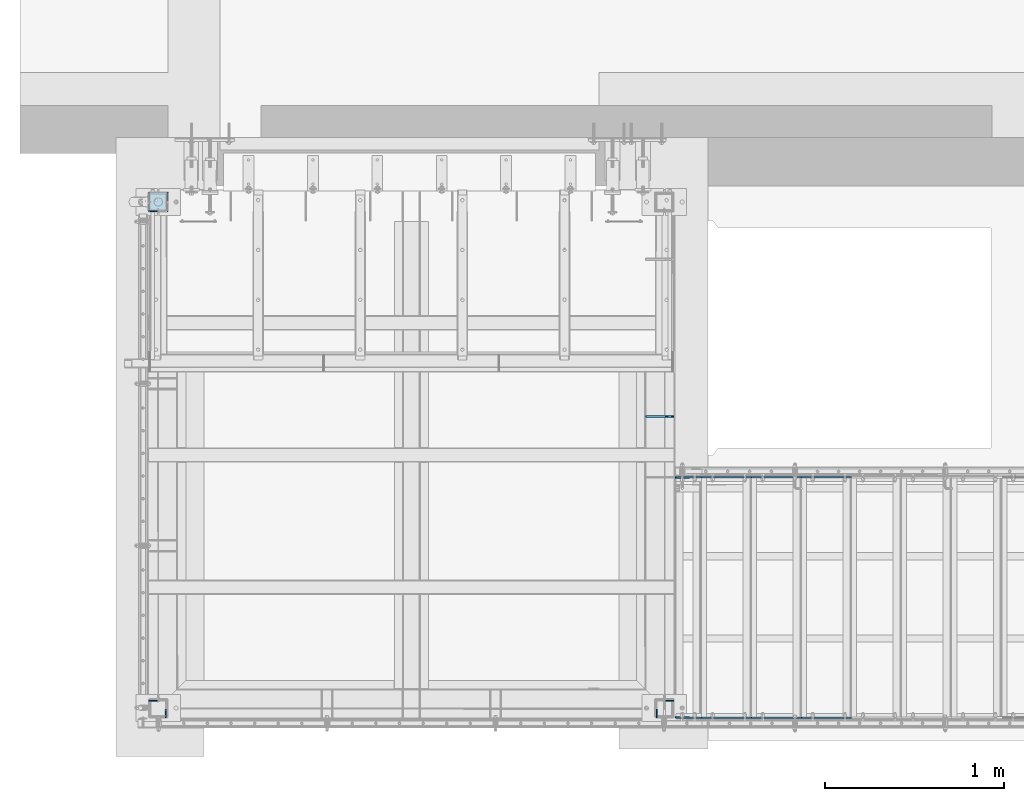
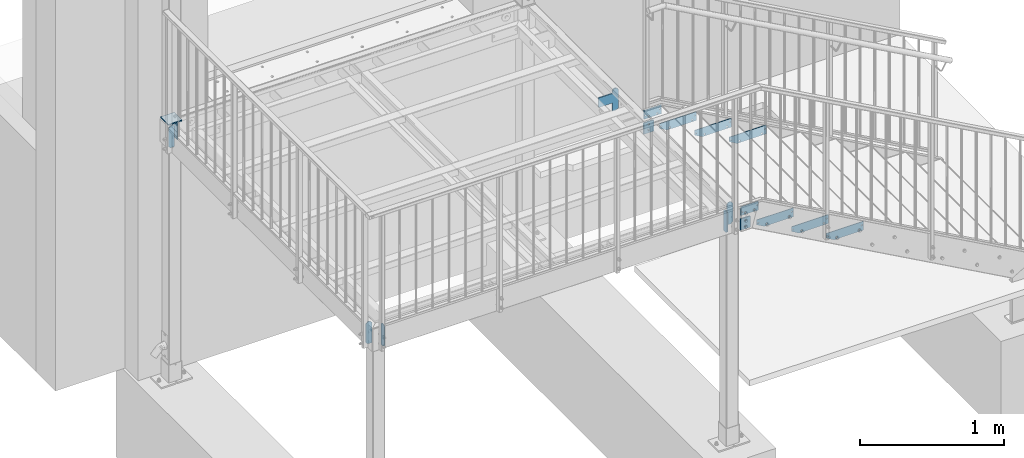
# One storey, part 23 of 116: 18 plates, 60 openings.
"""IFC2X3 building model written with IfcOpenShell, lengths in millimetres."""

from ifc_helpers import new_model, entity, si_unit, converted_unit, frame, frame_2d, origin, origin_with_axes, origin_2d_with_axis, place, context, project, spatial, polyline, circle, outline, extrude, material, layer, layer_set, element, save


model = new_model("IFC2X3")

# Units and contexts
model_context = context("Model", 3, precision=1e-09, world=origin_with_axes())
ifc_project = project(units=[si_unit("LENGTHUNIT", "METRE", prefix="MILLI"), si_unit("AREAUNIT", "SQUARE_METRE"), si_unit("VOLUMEUNIT", "CUBIC_METRE"), converted_unit("PLANEANGLEUNIT", "DEGREE", entity("IfcPlaneAngleMeasure", 0.01745329), si_unit("PLANEANGLEUNIT", "RADIAN"), dimensions=[0, 0, 0, 0, 0, 0, 0])], contexts=[model_context])

# Site, building, storey
site_placement = place(None, origin_with_axes())
site = spatial("IfcSite", under=ifc_project, at=site_placement, Name="Site", CompositionType="ELEMENT")
building_placement = place(site_placement, origin_with_axes())
building = spatial("IfcBuilding", under=site, at=building_placement, Name="Struktur 1", CompositionType="ELEMENT")
storey_placement = place(building_placement, origin_with_axes())
storey = spatial("IfcBuildingStorey", under=building, at=storey_placement, Name="Default Storey", CompositionType="ELEMENT", Elevation=0.0)

# Plate
ifc_material = material(Name="S235JR")
ifc_layer_1 = layer(ifc_material, 10.0)
ifc_layer_set_1 = layer_set([ifc_layer_1], Name="S235JR")
plate_1_placement = place(None, frame((55337.049134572, 11962.358883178, -5.0), z_axis=(0.0, 0.0, 1.0), x_axis=(0.0, -1.0, 0.0)))
element("IfcPlate", 1, at=plate_1_placement, inside=storey, material=ifc_layer_set_1, Name="-", ObjectType="-", context=model_context, shape_type="SweptSolid", body=[
    extrude(outline(polyline([(-55.0, -55.0), (55.0, -55.0), (55.0, 55.0), (-55.0, 55.0), (-55.0, -55.0)])), origin_with_axes(), (0.0, 0.0, 1.0), 10.0),
])

# Plate, openings
ifc_layer_2 = layer(ifc_material, 6.0)
ifc_layer_set_2 = layer_set([ifc_layer_2], Name="S235JR")
plate_2_placement = place(None, frame((55392.049134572, 11992.358518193, -105.0), z_axis=(-1.0, 0.0, 0.0), x_axis=(0.0, -1.0, 0.0)))
plate_2 = element("IfcPlate", 2, at=plate_2_placement, inside=storey, material=ifc_layer_set_2, Name="-", ObjectType="-", context=model_context, shape_type="SweptSolid", body=[
    extrude(outline(polyline([(-23.5, -93.5), (23.5, -93.5), (23.5, 93.5), (-23.5, 93.5), (-23.5, -93.5)])), origin_with_axes(), (0.0, 0.0, 1.0), 6.0),
])
opening_1_placement = place(plate_2_placement, frame((0.0, 35.629047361, -0.01), z_axis=(0.0, 0.0, 1.0), x_axis=(1.0, 0.0, 0.0)))
element("IfcOpeningElement", 3, at=opening_1_placement, cuts=plate_2, ObjectType="Opening", context=model_context, shape_type="SweptSolid", body=[
    extrude(outline(polyline([(-23.5, 57.870952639), (-23.5, 42.870952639), (-8.5, 57.870952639), (-23.5, 57.870952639)])), origin(), (0.0, 0.0, 1.0), 6.02),
])
opening_2_placement = place(plate_2_placement, frame((0.0, 35.629047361, -0.01), z_axis=(0.0, 0.0, 1.0), x_axis=(1.0, 0.0, 0.0)))
element("IfcOpeningElement", 4, at=opening_2_placement, cuts=plate_2, ObjectType="Opening", context=model_context, shape_type="SweptSolid", body=[
    extrude(outline(polyline([(23.5, 57.870952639), (8.5, 57.870952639), (23.5, 42.870952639), (23.5, 57.870952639)])), origin(), (0.0, 0.0, 1.0), 6.02),
])
opening_3_placement = place(plate_2_placement, frame((0.0, 35.629047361, -0.01), z_axis=(0.0, 0.0, 1.0), x_axis=(1.0, 0.0, 0.0)))
element("IfcOpeningElement", 5, at=opening_3_placement, cuts=plate_2, ObjectType="Opening", context=model_context, shape_type="SweptSolid", body=[
    extrude(outline(polyline([(-23.5, -129.129047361), (-8.5, -129.129047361), (-23.5, -114.129047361), (-23.5, -129.129047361)])), origin(), (0.0, 0.0, 1.0), 6.02),
])

plate_3_placement = place(None, frame((55307.034862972, 11907.360298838, -105.0), z_axis=(-0.000188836, -0.999999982, 0.0), x_axis=(0.999999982, -0.000188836, 0.0)))
plate_3 = element("IfcPlate", 6, at=plate_3_placement, inside=storey, material=ifc_layer_set_2, Name="-", ObjectType="-", context=model_context, shape_type="SweptSolid", body=[
    extrude(outline(polyline([(-23.5, -93.5), (23.5, -93.5), (23.5, 93.5), (-23.5, 93.5), (-23.5, -93.5)])), origin_with_axes(), (0.0, 0.0, -1.0), 6.0),
])
opening_4_placement = place(plate_3_placement, frame((-23.5, 93.5, 0.01), z_axis=(0.0, 0.0, 1.0), x_axis=(0.0, -1.0, 0.0)))
element("IfcOpeningElement", 7, at=opening_4_placement, cuts=plate_3, ObjectType="Opening", context=model_context, shape_type="SweptSolid", body=[
    extrude(outline(polyline([(0.0, 0.0), (15.0, 0.0), (0.0, 15.0), (0.0, 0.0)])), origin(), (0.0, 0.0, -1.0), 6.02),
])
opening_5_placement = place(plate_3_placement, frame((23.5, 93.5, 0.01), z_axis=(0.0, 0.0, 1.0), x_axis=(-1.0, 0.0, 0.0)))
element("IfcOpeningElement", 8, at=opening_5_placement, cuts=plate_3, ObjectType="Opening", context=model_context, shape_type="SweptSolid", body=[
    extrude(outline(polyline([(0.0, 0.0), (15.0, 0.0), (0.0, 15.0), (0.0, 0.0)])), origin(), (0.0, 0.0, -1.0), 6.02),
])
opening_6_placement = place(plate_3_placement, frame((-23.5, -93.5, 0.01), z_axis=(0.0, 0.0, 1.0), x_axis=(1.0, 0.0, 0.0)))
element("IfcOpeningElement", 9, at=opening_6_placement, cuts=plate_3, ObjectType="Opening", context=model_context, shape_type="SweptSolid", body=[
    extrude(outline(polyline([(0.0, 0.0), (15.0, 0.0), (0.0, 15.0), (0.0, 0.0)])), origin(), (0.0, 0.0, -1.0), 6.02),
])

ifc_layer_3 = layer(ifc_material, 5.0)
ifc_layer_set_3 = layer_set([ifc_layer_3], Name="S235JR")
plate_4_placement = place(None, frame((58062.049134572, 10421.358883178, -8.0), z_axis=(0.0, 1.0, 0.0), x_axis=(1.0, 0.0, 0.0)))
plate_4 = element("IfcPlate", 10, at=plate_4_placement, inside=storey, material=ifc_layer_set_3, Name="-", ObjectType="-", context=model_context, shape_type="SweptSolid", body=[
    extrude(outline(polyline([(170.0, 0.0), (310.0, 0.0), (310.0, 75.0), (170.0, 75.0), (170.0, 0.0)])), origin_with_axes(), (0.0, 0.0, 1.0), 5.0),
])
opening_7_placement = place(plate_4_placement, frame((299.0, 29.0, 5.5), z_axis=(0.0, 0.0, -1.0), x_axis=(0.0, -1.0, 0.0)))
element("IfcOpeningElement", 11, at=opening_7_placement, cuts=plate_4, ObjectType="Opening", context=model_context, shape_type="SweptSolid", body=[
    extrude(circle(Radius=5.001, at=frame_2d((1.0, 2.0), x_axis=(1.0, 0.0))), origin(), (0.0, 0.0, 1.0), 6.0),
])
opening_8_placement = place(plate_4_placement, frame((182.0, 52.001, 5.5), z_axis=(0.0, 0.0, 1.0), x_axis=(1.0, 0.0, 0.0)))
element("IfcOpeningElement", 12, at=opening_8_placement, cuts=plate_4, ObjectType="Opening", context=model_context, shape_type="SweptSolid", body=[
    extrude(circle(Radius=5.001, at=frame_2d((0.0, -5.001), x_axis=(1.0, 0.0))), origin(), (0.0, 0.0, -1.0), 6.0),
])
opening_9_placement = place(plate_4_placement, frame((267.999, 60.0, -0.5), z_axis=(0.0, 0.0, -1.0), x_axis=(-1.0, 0.0, 0.0)))
element("IfcOpeningElement", 13, at=opening_9_placement, cuts=plate_4, ObjectType="Opening", context=model_context, shape_type="SweptSolid", body=[
    extrude(circle(Radius=7.001, at=frame_2d((-7.001, 0.0), x_axis=(1.0, 0.0))), origin(), (0.0, 0.0, -1.0), 6.0),
])
opening_10_placement = place(plate_4_placement, frame((205.0, 60.0, 5.5), z_axis=(0.0, 0.0, -1.0), x_axis=(1.0, 0.0, 0.0)))
element("IfcOpeningElement", 14, at=opening_10_placement, cuts=plate_4, ObjectType="Opening", context=model_context, shape_type="SweptSolid", body=[
    extrude(circle(Radius=7.001, at=origin_2d_with_axis()), origin(), (0.0, 0.0, 1.0), 6.0),
])

plate_5_placement = place(None, frame((58062.049134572, 9081.358883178, -8.0), z_axis=(0.0, 1.0, 0.0), x_axis=(1.0, 0.0, 0.0)))
plate_5 = element("IfcPlate", 15, at=plate_5_placement, inside=storey, material=ifc_layer_set_3, Name="-", ObjectType="-", context=model_context, shape_type="SweptSolid", body=[
    extrude(outline(polyline([(170.0, 0.0), (310.0, 0.0), (310.0, 75.0), (170.0, 75.0), (170.0, 0.0)])), origin_with_axes(), (0.0, 0.0, -1.0), 5.0),
])
opening_11_placement = place(plate_5_placement, frame((297.0, 33.001, -5.5), z_axis=(0.0, 0.0, -1.0), x_axis=(-1.0, 0.0, 0.0)))
element("IfcOpeningElement", 16, at=opening_11_placement, cuts=plate_5, ObjectType="Opening", context=model_context, shape_type="SweptSolid", body=[
    extrude(circle(Radius=5.001, at=frame_2d((0.0, -5.001), x_axis=(1.0, 0.0))), origin(), (0.0, 0.0, -1.0), 6.0),
])
opening_12_placement = place(plate_5_placement, frame((11.0, 46.0, -5.5), z_axis=(0.0, 0.0, 1.0), x_axis=(0.0, -1.0, 0.0)))
element("IfcOpeningElement", 17, at=opening_12_placement, cuts=plate_5, ObjectType="Opening", context=model_context, shape_type="SweptSolid", body=[
    extrude(circle(Radius=5.001, at=frame_2d((-1.0, 171.0), x_axis=(1.0, 0.0))), origin(), (0.0, 0.0, 1.0), 6.0),
])
opening_13_placement = place(plate_5_placement, frame((275.0, 60.0, 0.5), z_axis=(0.0, 0.0, -1.0), x_axis=(1.0, 0.0, 0.0)))
element("IfcOpeningElement", 18, at=opening_13_placement, cuts=plate_5, ObjectType="Opening", context=model_context, shape_type="SweptSolid", body=[
    extrude(circle(Radius=7.001, at=origin_2d_with_axis()), origin(), (0.0, 0.0, 1.0), 6.0),
])
opening_14_placement = place(plate_5_placement, frame((205.0, 60.0, 0.5), z_axis=(0.0, 0.0, -1.0), x_axis=(1.0, 0.0, 0.0)))
element("IfcOpeningElement", 19, at=opening_14_placement, cuts=plate_5, ObjectType="Opening", context=model_context, shape_type="SweptSolid", body=[
    extrude(circle(Radius=7.001, at=origin_2d_with_axis()), origin(), (0.0, 0.0, 1.0), 6.0),
])

plate_6_placement = place(None, frame((58267.049134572, 9086.358883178, -158.0), z_axis=(0.0, -1.0, 0.0), x_axis=(1.0, 0.0, 0.0)))
plate_6 = element("IfcPlate", 20, at=plate_6_placement, inside=storey, material=ifc_layer_set_1, Name="-", ObjectType="-", context=model_context, shape_type="SweptSolid", body=[
    extrude(outline(polyline([(-40.0, -47.0), (40.0, -47.0), (40.0, 47.0), (-40.0, 47.0), (-40.0, -47.0)])), origin_with_axes(), (0.0, 0.0, 1.0), 10.0),
])
opening_15_placement = place(plate_6_placement, frame((0.0, -4e-09, -0.5), z_axis=(0.0, 0.0, 1.0), x_axis=(1.0, 0.0, 0.0)))
element("IfcOpeningElement", 21, at=opening_15_placement, cuts=plate_6, ObjectType="Opening", context=model_context, shape_type="SweptSolid", body=[
    extrude(circle(Radius=7.001, at=frame_2d((0.0, 25.0), x_axis=(1.0, 0.0))), origin(), (0.0, 0.0, 1.0), 11.0),
])
opening_16_placement = place(plate_6_placement, frame((0.0, -4e-09, -0.5), z_axis=(0.0, 0.0, 1.0), x_axis=(1.0, 0.0, 0.0)))
element("IfcOpeningElement", 22, at=opening_16_placement, cuts=plate_6, ObjectType="Opening", context=model_context, shape_type="SweptSolid", body=[
    extrude(circle(Radius=7.001, at=frame_2d((0.0, -25.0), x_axis=(1.0, 0.0))), origin(), (0.0, 0.0, 1.0), 11.0),
])

plate_7_placement = place(None, frame((58267.049134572, 10416.358883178, -158.0), z_axis=(0.0, -1.0, 0.0), x_axis=(1.0, 0.0, 0.0)))
plate_7 = element("IfcPlate", 23, at=plate_7_placement, inside=storey, material=ifc_layer_set_1, Name="-", ObjectType="-", context=model_context, shape_type="SweptSolid", body=[
    extrude(outline(polyline([(-40.0, -47.0), (40.0, -47.0), (40.0, 47.0), (-40.0, 47.0), (-40.0, -47.0)])), origin_with_axes(), (0.0, 0.0, -1.0), 10.0),
])
opening_17_placement = place(plate_7_placement, frame((-7.001, -25.000000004, 0.5), z_axis=(0.0, 0.0, 1.0), x_axis=(1.0, 0.0, 0.0)))
element("IfcOpeningElement", 24, at=opening_17_placement, cuts=plate_7, ObjectType="Opening", context=model_context, shape_type="SweptSolid", body=[
    extrude(circle(Radius=7.001, at=frame_2d((7.001, 0.0), x_axis=(1.0, 0.0))), origin(), (0.0, 0.0, -1.0), 11.0),
])
opening_18_placement = place(plate_7_placement, frame((0.0, 24.999999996, -10.5), z_axis=(0.0, 0.0, 1.0), x_axis=(1.0, 0.0, 0.0)))
element("IfcOpeningElement", 25, at=opening_18_placement, cuts=plate_7, ObjectType="Opening", context=model_context, shape_type="SweptSolid", body=[
    extrude(circle(Radius=7.001, at=origin_2d_with_axis()), origin(), (0.0, 0.0, 1.0), 11.0),
])

# Plate
plate_8_placement = place(None, frame((58197.063406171, 10767.357467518, -105.0), z_axis=(0.000188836, 0.999999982, 0.0), x_axis=(-0.999999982, 0.000188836, 0.0)))
element("IfcPlate", 26, at=plate_8_placement, inside=storey, material=ifc_layer_set_1, Name="-", ObjectType="-", context=model_context, shape_type="SweptSolid", body=[
    extrude(outline(polyline([(23.499998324, -23.0), (133.999998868, -23.0), (133.999998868, 57.0), (23.5, 57.0), (23.5, 78.5), (8.5, 93.5), (-8.5, 93.5), (-23.5, 78.5), (-23.5, -78.5), (-8.5, -93.5), (23.5, -93.5), (23.499998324, -23.0)])), origin_with_axes(), (0.0, 0.0, -1.0), 10.0),
])

# Plate, openings
plate_9_placement = place(None, frame((58912.049134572, 10421.358883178, -473.0), z_axis=(0.0, 1.0, 0.0), x_axis=(1.0, 0.0, 0.0)))
plate_9 = element("IfcPlate", 27, at=plate_9_placement, inside=storey, material=ifc_layer_set_3, Name="-", ObjectType="-", context=model_context, shape_type="SweptSolid", body=[
    extrude(outline(polyline([(5.0, 0.0), (300.0, 0.0), (300.0, 75.0), (5.0, 75.0), (5.0, 0.0)])), origin_with_axes(), (0.0, 0.0, 1.0), 5.0),
])
opening_19_placement = place(plate_9_placement, frame((0.0, 0.0, -0.01), z_axis=(0.0, 0.0, 1.0), x_axis=(1.0, 0.0, 0.0)))
element("IfcOpeningElement", 28, at=opening_19_placement, cuts=plate_9, ObjectType="Opening", context=model_context, shape_type="SweptSolid", body=[
    extrude(outline(polyline([(5.0, 75.0), (5.0, 40.0), (65.0, 75.0), (5.0, 75.0)])), origin(), (0.0, 0.0, 1.0), 5.02),
])
opening_20_placement = place(plate_9_placement, frame((11.0, 29.0, 5.5), z_axis=(0.0, 0.0, -1.0), x_axis=(0.0, 1.0, 0.0)))
element("IfcOpeningElement", 29, at=opening_20_placement, cuts=plate_9, ObjectType="Opening", context=model_context, shape_type="SweptSolid", body=[
    extrude(circle(Radius=5.001, at=frame_2d((-1.0, 6.0), x_axis=(1.0, 0.0))), origin(), (0.0, 0.0, 1.0), 6.0),
])
opening_21_placement = place(plate_9_placement, frame((299.0, 29.0, 5.5), z_axis=(0.0, 0.0, -1.0), x_axis=(0.0, -1.0, 0.0)))
element("IfcOpeningElement", 30, at=opening_21_placement, cuts=plate_9, ObjectType="Opening", context=model_context, shape_type="SweptSolid", body=[
    extrude(circle(Radius=5.001, at=frame_2d((1.0, 12.0), x_axis=(1.0, 0.0))), origin(), (0.0, 0.0, 1.0), 6.0),
])
opening_22_placement = place(plate_9_placement, frame((257.999, 60.0, -0.5), z_axis=(0.0, 0.0, -1.0), x_axis=(-1.0, 0.0, 0.0)))
element("IfcOpeningElement", 31, at=opening_22_placement, cuts=plate_9, ObjectType="Opening", context=model_context, shape_type="SweptSolid", body=[
    extrude(circle(Radius=7.001, at=frame_2d((-7.001, 0.0), x_axis=(1.0, 0.0))), origin(), (0.0, 0.0, -1.0), 6.0),
])
opening_23_placement = place(plate_9_placement, frame((77.999, 60.0, -0.5), z_axis=(0.0, 0.0, -1.0), x_axis=(-1.0, 0.0, 0.0)))
element("IfcOpeningElement", 32, at=opening_23_placement, cuts=plate_9, ObjectType="Opening", context=model_context, shape_type="SweptSolid", body=[
    extrude(circle(Radius=7.001, at=frame_2d((-7.001, 0.0), x_axis=(1.0, 0.0))), origin(), (0.0, 0.0, -1.0), 6.0),
])

plate_10_placement = place(None, frame((58912.049134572, 9081.358883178, -473.0), z_axis=(0.0, 1.0, 0.0), x_axis=(1.0, 0.0, 0.0)))
plate_10 = element("IfcPlate", 33, at=plate_10_placement, inside=storey, material=ifc_layer_set_3, Name="-", ObjectType="-", context=model_context, shape_type="SweptSolid", body=[
    extrude(outline(polyline([(5.0, 0.0), (300.0, 0.0), (300.0, 75.0), (5.0, 75.0), (5.0, 0.0)])), origin_with_axes(), (0.0, 0.0, -1.0), 5.0),
])
opening_24_placement = place(plate_10_placement, frame((5.0, 75.0, 0.01), z_axis=(0.0, 0.0, 1.0), x_axis=(0.0, -1.0, 0.0)))
element("IfcOpeningElement", 34, at=opening_24_placement, cuts=plate_10, ObjectType="Opening", context=model_context, shape_type="SweptSolid", body=[
    extrude(outline(polyline([(0.0, 0.0), (35.0, 0.0), (0.0, 60.0), (0.0, 0.0)])), origin(), (0.0, 0.0, -1.0), 5.02),
])
opening_25_placement = place(plate_10_placement, frame((17.0, 22.999, -5.5), z_axis=(0.0, 0.0, -1.0), x_axis=(-1.0, 0.0, 0.0)))
element("IfcOpeningElement", 35, at=opening_25_placement, cuts=plate_10, ObjectType="Opening", context=model_context, shape_type="SweptSolid", body=[
    extrude(circle(Radius=5.001, at=frame_2d((0.0, 5.001), x_axis=(1.0, 0.0))), origin(), (0.0, 0.0, -1.0), 6.0),
])
opening_26_placement = place(plate_10_placement, frame((287.0, 33.001, -5.5), z_axis=(0.0, 0.0, -1.0), x_axis=(-1.0, 0.0, 0.0)))
element("IfcOpeningElement", 36, at=opening_26_placement, cuts=plate_10, ObjectType="Opening", context=model_context, shape_type="SweptSolid", body=[
    extrude(circle(Radius=5.001, at=frame_2d((0.0, -5.001), x_axis=(1.0, 0.0))), origin(), (0.0, 0.0, -1.0), 6.0),
])
opening_27_placement = place(plate_10_placement, frame((265.0, 60.0, 0.5), z_axis=(0.0, 0.0, -1.0), x_axis=(1.0, 0.0, 0.0)))
element("IfcOpeningElement", 37, at=opening_27_placement, cuts=plate_10, ObjectType="Opening", context=model_context, shape_type="SweptSolid", body=[
    extrude(circle(Radius=7.001, at=origin_2d_with_axis()), origin(), (0.0, 0.0, 1.0), 6.0),
])
opening_28_placement = place(plate_10_placement, frame((85.0, 60.0, 0.5), z_axis=(0.0, 0.0, -1.0), x_axis=(1.0, 0.0, 0.0)))
element("IfcOpeningElement", 38, at=opening_28_placement, cuts=plate_10, ObjectType="Opening", context=model_context, shape_type="SweptSolid", body=[
    extrude(circle(Radius=7.001, at=origin_2d_with_axis()), origin(), (0.0, 0.0, 1.0), 6.0),
])

plate_11_placement = place(None, frame((58632.049134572, 10421.358883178, -318.0), z_axis=(0.0, 1.0, 0.0), x_axis=(1.0, 0.0, 0.0)))
plate_11 = element("IfcPlate", 39, at=plate_11_placement, inside=storey, material=ifc_layer_set_3, Name="-", ObjectType="-", context=model_context, shape_type="SweptSolid", body=[
    extrude(outline(polyline([(5.0, 0.0), (300.0, 0.0), (300.0, 75.0), (5.0, 75.0), (5.0, 0.0)])), origin_with_axes(), (0.0, 0.0, 1.0), 5.0),
])
opening_29_placement = place(plate_11_placement, frame((0.0, 0.0, -0.01), z_axis=(0.0, 0.0, 1.0), x_axis=(1.0, 0.0, 0.0)))
element("IfcOpeningElement", 40, at=opening_29_placement, cuts=plate_11, ObjectType="Opening", context=model_context, shape_type="SweptSolid", body=[
    extrude(outline(polyline([(5.0, 75.0), (5.0, 40.0), (65.0, 75.0), (5.0, 75.0)])), origin(), (0.0, 0.0, 1.0), 5.02),
])
opening_30_placement = place(plate_11_placement, frame((11.0, 29.0, 5.5), z_axis=(0.0, 0.0, -1.0), x_axis=(0.0, 1.0, 0.0)))
element("IfcOpeningElement", 41, at=opening_30_placement, cuts=plate_11, ObjectType="Opening", context=model_context, shape_type="SweptSolid", body=[
    extrude(circle(Radius=5.001, at=frame_2d((-1.0, 6.0), x_axis=(1.0, 0.0))), origin(), (0.0, 0.0, 1.0), 6.0),
])
opening_31_placement = place(plate_11_placement, frame((299.0, 29.0, 5.5), z_axis=(0.0, 0.0, -1.0), x_axis=(0.0, -1.0, 0.0)))
element("IfcOpeningElement", 42, at=opening_31_placement, cuts=plate_11, ObjectType="Opening", context=model_context, shape_type="SweptSolid", body=[
    extrude(circle(Radius=5.001, at=frame_2d((1.0, 12.0), x_axis=(1.0, 0.0))), origin(), (0.0, 0.0, 1.0), 6.0),
])
opening_32_placement = place(plate_11_placement, frame((77.999, 60.0, -0.5), z_axis=(0.0, 0.0, -1.0), x_axis=(-1.0, 0.0, 0.0)))
element("IfcOpeningElement", 43, at=opening_32_placement, cuts=plate_11, ObjectType="Opening", context=model_context, shape_type="SweptSolid", body=[
    extrude(circle(Radius=7.001, at=frame_2d((-7.001, 0.0), x_axis=(1.0, 0.0))), origin(), (0.0, 0.0, -1.0), 6.0),
])
opening_33_placement = place(plate_11_placement, frame((265.0, 60.0, 5.5), z_axis=(0.0, 0.0, -1.0), x_axis=(1.0, 0.0, 0.0)))
element("IfcOpeningElement", 44, at=opening_33_placement, cuts=plate_11, ObjectType="Opening", context=model_context, shape_type="SweptSolid", body=[
    extrude(circle(Radius=7.001, at=origin_2d_with_axis()), origin(), (0.0, 0.0, 1.0), 6.0),
])

plate_12_placement = place(None, frame((58632.049134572, 9081.358883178, -318.0), z_axis=(0.0, 1.0, 0.0), x_axis=(1.0, 0.0, 0.0)))
plate_12 = element("IfcPlate", 45, at=plate_12_placement, inside=storey, material=ifc_layer_set_3, Name="-", ObjectType="-", context=model_context, shape_type="SweptSolid", body=[
    extrude(outline(polyline([(5.0, 0.0), (300.0, 0.0), (300.0, 75.0), (5.0, 75.0), (5.0, 0.0)])), origin_with_axes(), (0.0, 0.0, -1.0), 5.0),
])
opening_34_placement = place(plate_12_placement, frame((5.0, 75.0, 0.01), z_axis=(0.0, 0.0, 1.0), x_axis=(0.0, -1.0, 0.0)))
element("IfcOpeningElement", 46, at=opening_34_placement, cuts=plate_12, ObjectType="Opening", context=model_context, shape_type="SweptSolid", body=[
    extrude(outline(polyline([(0.0, 0.0), (35.0, 0.0), (0.0, 60.0), (0.0, 0.0)])), origin(), (0.0, 0.0, -1.0), 5.02),
])
opening_35_placement = place(plate_12_placement, frame((17.0, 22.999, -5.5), z_axis=(0.0, 0.0, -1.0), x_axis=(-1.0, 0.0, 0.0)))
element("IfcOpeningElement", 47, at=opening_35_placement, cuts=plate_12, ObjectType="Opening", context=model_context, shape_type="SweptSolid", body=[
    extrude(circle(Radius=5.001, at=frame_2d((0.0, 5.001), x_axis=(1.0, 0.0))), origin(), (0.0, 0.0, -1.0), 6.0),
])
opening_36_placement = place(plate_12_placement, frame((287.0, 33.001, -5.5), z_axis=(0.0, 0.0, -1.0), x_axis=(-1.0, 0.0, 0.0)))
element("IfcOpeningElement", 48, at=opening_36_placement, cuts=plate_12, ObjectType="Opening", context=model_context, shape_type="SweptSolid", body=[
    extrude(circle(Radius=5.001, at=frame_2d((0.0, -5.001), x_axis=(1.0, 0.0))), origin(), (0.0, 0.0, -1.0), 6.0),
])
opening_37_placement = place(plate_12_placement, frame((85.0, 60.0, 0.5), z_axis=(0.0, 0.0, -1.0), x_axis=(1.0, 0.0, 0.0)))
element("IfcOpeningElement", 49, at=opening_37_placement, cuts=plate_12, ObjectType="Opening", context=model_context, shape_type="SweptSolid", body=[
    extrude(circle(Radius=7.001, at=origin_2d_with_axis()), origin(), (0.0, 0.0, 1.0), 6.0),
])
opening_38_placement = place(plate_12_placement, frame((257.999, 60.0, -5.5), z_axis=(0.0, 0.0, -1.0), x_axis=(-1.0, 0.0, 0.0)))
element("IfcOpeningElement", 50, at=opening_38_placement, cuts=plate_12, ObjectType="Opening", context=model_context, shape_type="SweptSolid", body=[
    extrude(circle(Radius=7.001, at=frame_2d((-7.001, 0.0), x_axis=(1.0, 0.0))), origin(), (0.0, 0.0, -1.0), 6.0),
])

plate_13_placement = place(None, frame((58352.049134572, 10421.358883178, -163.0), z_axis=(0.0, 1.0, 0.0), x_axis=(1.0, 0.0, 0.0)))
plate_13 = element("IfcPlate", 51, at=plate_13_placement, inside=storey, material=ifc_layer_set_3, Name="-", ObjectType="-", context=model_context, shape_type="SweptSolid", body=[
    extrude(outline(polyline([(5.0, 0.0), (300.0, 0.0), (300.0, 75.0), (5.0, 75.0), (5.0, 0.0)])), origin_with_axes(), (0.0, 0.0, 1.0), 5.0),
])
opening_39_placement = place(plate_13_placement, frame((0.0, 0.0, -0.01), z_axis=(0.0, 0.0, 1.0), x_axis=(1.0, 0.0, 0.0)))
element("IfcOpeningElement", 52, at=opening_39_placement, cuts=plate_13, ObjectType="Opening", context=model_context, shape_type="SweptSolid", body=[
    extrude(outline(polyline([(5.0, 75.0), (5.0, 40.0), (65.0, 75.0), (5.0, 75.0)])), origin(), (0.0, 0.0, 1.0), 5.02),
])
opening_40_placement = place(plate_13_placement, frame((11.0, 29.0, 5.5), z_axis=(0.0, 0.0, -1.0), x_axis=(0.0, 1.0, 0.0)))
element("IfcOpeningElement", 53, at=opening_40_placement, cuts=plate_13, ObjectType="Opening", context=model_context, shape_type="SweptSolid", body=[
    extrude(circle(Radius=5.001, at=frame_2d((-1.0, 6.0), x_axis=(1.0, 0.0))), origin(), (0.0, 0.0, 1.0), 6.0),
])
opening_41_placement = place(plate_13_placement, frame((299.0, 29.0, 5.5), z_axis=(0.0, 0.0, -1.0), x_axis=(0.0, -1.0, 0.0)))
element("IfcOpeningElement", 54, at=opening_41_placement, cuts=plate_13, ObjectType="Opening", context=model_context, shape_type="SweptSolid", body=[
    extrude(circle(Radius=5.001, at=frame_2d((1.0, 12.0), x_axis=(1.0, 0.0))), origin(), (0.0, 0.0, 1.0), 6.0),
])
opening_42_placement = place(plate_13_placement, frame((77.999, 60.0, -0.5), z_axis=(0.0, 0.0, -1.0), x_axis=(-1.0, 0.0, 0.0)))
element("IfcOpeningElement", 55, at=opening_42_placement, cuts=plate_13, ObjectType="Opening", context=model_context, shape_type="SweptSolid", body=[
    extrude(circle(Radius=7.001, at=frame_2d((-7.001, 0.0), x_axis=(1.0, 0.0))), origin(), (0.0, 0.0, -1.0), 6.0),
])
opening_43_placement = place(plate_13_placement, frame((257.999, 60.0, -0.5), z_axis=(0.0, 0.0, -1.0), x_axis=(-1.0, 0.0, 0.0)))
element("IfcOpeningElement", 56, at=opening_43_placement, cuts=plate_13, ObjectType="Opening", context=model_context, shape_type="SweptSolid", body=[
    extrude(circle(Radius=7.001, at=frame_2d((-7.001, 0.0), x_axis=(1.0, 0.0))), origin(), (0.0, 0.0, -1.0), 6.0),
])

plate_14_placement = place(None, frame((58352.049134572, 9081.358883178, -163.0), z_axis=(0.0, 1.0, 0.0), x_axis=(1.0, 0.0, 0.0)))
plate_14 = element("IfcPlate", 57, at=plate_14_placement, inside=storey, material=ifc_layer_set_3, Name="-", ObjectType="-", context=model_context, shape_type="SweptSolid", body=[
    extrude(outline(polyline([(5.0, 0.0), (300.0, 0.0), (300.0, 75.0), (5.0, 75.0), (5.0, 0.0)])), origin_with_axes(), (0.0, 0.0, -1.0), 5.0),
])
opening_44_placement = place(plate_14_placement, frame((5.0, 75.0, 0.01), z_axis=(0.0, 0.0, 1.0), x_axis=(0.0, -1.0, 0.0)))
element("IfcOpeningElement", 58, at=opening_44_placement, cuts=plate_14, ObjectType="Opening", context=model_context, shape_type="SweptSolid", body=[
    extrude(outline(polyline([(0.0, 0.0), (35.0, 0.0), (0.0, 60.0), (0.0, 0.0)])), origin(), (0.0, 0.0, -1.0), 5.02),
])
opening_45_placement = place(plate_14_placement, frame((17.0, 22.999, -5.5), z_axis=(0.0, 0.0, -1.0), x_axis=(-1.0, 0.0, 0.0)))
element("IfcOpeningElement", 59, at=opening_45_placement, cuts=plate_14, ObjectType="Opening", context=model_context, shape_type="SweptSolid", body=[
    extrude(circle(Radius=5.001, at=frame_2d((0.0, 5.001), x_axis=(1.0, 0.0))), origin(), (0.0, 0.0, -1.0), 6.0),
])
opening_46_placement = place(plate_14_placement, frame((287.0, 33.001, -5.5), z_axis=(0.0, 0.0, -1.0), x_axis=(-1.0, 0.0, 0.0)))
element("IfcOpeningElement", 60, at=opening_46_placement, cuts=plate_14, ObjectType="Opening", context=model_context, shape_type="SweptSolid", body=[
    extrude(circle(Radius=5.001, at=frame_2d((0.0, -5.001), x_axis=(1.0, 0.0))), origin(), (0.0, 0.0, -1.0), 6.0),
])
opening_47_placement = place(plate_14_placement, frame((85.0, 60.0, 0.5), z_axis=(0.0, 0.0, -1.0), x_axis=(1.0, 0.0, 0.0)))
element("IfcOpeningElement", 61, at=opening_47_placement, cuts=plate_14, ObjectType="Opening", context=model_context, shape_type="SweptSolid", body=[
    extrude(circle(Radius=7.001, at=origin_2d_with_axis()), origin(), (0.0, 0.0, 1.0), 6.0),
])
opening_48_placement = place(plate_14_placement, frame((265.0, 60.0, 0.5), z_axis=(0.0, 0.0, -1.0), x_axis=(1.0, 0.0, 0.0)))
element("IfcOpeningElement", 62, at=opening_48_placement, cuts=plate_14, ObjectType="Opening", context=model_context, shape_type="SweptSolid", body=[
    extrude(circle(Radius=7.001, at=origin_2d_with_axis()), origin(), (0.0, 0.0, 1.0), 6.0),
])

plate_15_placement = place(None, frame((55382.049134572, 9102.359248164, -105.0), z_axis=(1.0, 0.0, 0.0), x_axis=(0.0, 1.0, 0.0)))
plate_15 = element("IfcPlate", 63, at=plate_15_placement, inside=storey, material=ifc_layer_set_2, Name="-", ObjectType="-", context=model_context, shape_type="SweptSolid", body=[
    extrude(outline(polyline([(-23.5, -93.5), (23.5, -93.5), (23.5, 93.5), (-23.5, 93.5), (-23.5, -93.5)])), origin_with_axes(), (0.0, 0.0, -1.0), 6.0),
])
opening_49_placement = place(plate_15_placement, frame((-23.5, 93.5, 0.01), z_axis=(0.0, 0.0, 1.0), x_axis=(0.0, -1.0, 0.0)))
element("IfcOpeningElement", 64, at=opening_49_placement, cuts=plate_15, ObjectType="Opening", context=model_context, shape_type="SweptSolid", body=[
    extrude(outline(polyline([(0.0, 0.0), (15.0, 0.0), (0.0, 15.0), (0.0, 0.0)])), origin(), (0.0, 0.0, -1.0), 6.02),
])
opening_50_placement = place(plate_15_placement, frame((23.5, 93.5, 0.01), z_axis=(0.0, 0.0, 1.0), x_axis=(-1.0, 0.0, 0.0)))
element("IfcOpeningElement", 65, at=opening_50_placement, cuts=plate_15, ObjectType="Opening", context=model_context, shape_type="SweptSolid", body=[
    extrude(outline(polyline([(0.0, 0.0), (15.0, 0.0), (0.0, 15.0), (0.0, 0.0)])), origin(), (0.0, 0.0, -1.0), 6.02),
])
opening_51_placement = place(plate_15_placement, frame((-23.5, -93.5, 0.01), z_axis=(0.0, 0.0, 1.0), x_axis=(1.0, 0.0, 0.0)))
element("IfcOpeningElement", 66, at=opening_51_placement, cuts=plate_15, ObjectType="Opening", context=model_context, shape_type="SweptSolid", body=[
    extrude(outline(polyline([(0.0, 0.0), (15.0, 0.0), (0.0, 15.0), (0.0, 0.0)])), origin(), (0.0, 0.0, -1.0), 6.02),
])

plate_16_placement = place(None, frame((58122.049134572, 9102.359248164, -105.0), z_axis=(1.0, 0.0, 0.0), x_axis=(0.0, 1.0, 0.0)))
plate_16 = element("IfcPlate", 67, at=plate_16_placement, inside=storey, material=ifc_layer_set_2, Name="-", ObjectType="-", context=model_context, shape_type="SweptSolid", body=[
    extrude(outline(polyline([(-23.5, -93.5), (23.5, -93.5), (23.5, 93.5), (-23.5, 93.5), (-23.5, -93.5)])), origin_with_axes(), (0.0, 0.0, 1.0), 6.0),
])
opening_52_placement = place(plate_16_placement, frame((0.0, 35.629047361, -0.01), z_axis=(0.0, 0.0, 1.0), x_axis=(1.0, 0.0, 0.0)))
element("IfcOpeningElement", 68, at=opening_52_placement, cuts=plate_16, ObjectType="Opening", context=model_context, shape_type="SweptSolid", body=[
    extrude(outline(polyline([(-23.5, 57.870952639), (-23.5, 42.870952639), (-8.5, 57.870952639), (-23.5, 57.870952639)])), origin(), (0.0, 0.0, 1.0), 6.02),
])
opening_53_placement = place(plate_16_placement, frame((0.0, 35.629047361, -0.01), z_axis=(0.0, 0.0, 1.0), x_axis=(1.0, 0.0, 0.0)))
element("IfcOpeningElement", 69, at=opening_53_placement, cuts=plate_16, ObjectType="Opening", context=model_context, shape_type="SweptSolid", body=[
    extrude(outline(polyline([(23.5, 57.870952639), (8.5, 57.870952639), (23.5, 42.870952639), (23.5, 57.870952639)])), origin(), (0.0, 0.0, 1.0), 6.02),
])
opening_54_placement = place(plate_16_placement, frame((0.0, 35.629047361, -0.01), z_axis=(0.0, 0.0, 1.0), x_axis=(1.0, 0.0, 0.0)))
element("IfcOpeningElement", 70, at=opening_54_placement, cuts=plate_16, ObjectType="Opening", context=model_context, shape_type="SweptSolid", body=[
    extrude(outline(polyline([(-23.5, -129.129047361), (-8.5, -129.129047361), (-23.5, -114.129047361), (-23.5, -129.129047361)])), origin(), (0.0, 0.0, 1.0), 6.02),
])

plate_17_placement = place(None, frame((55307.034862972, 9177.357467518, -105.0), z_axis=(0.000188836, -0.999999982, 0.0), x_axis=(0.999999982, 0.000188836, 0.0)))
plate_17 = element("IfcPlate", 71, at=plate_17_placement, inside=storey, material=ifc_layer_set_2, Name="-", ObjectType="-", context=model_context, shape_type="SweptSolid", body=[
    extrude(outline(polyline([(-23.5, -93.5), (23.5, -93.5), (23.5, 93.5), (-23.5, 93.5), (-23.5, -93.5)])), origin_with_axes(), (0.0, 0.0, 1.0), 6.0),
])
opening_55_placement = place(plate_17_placement, frame((0.0, 35.629047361, -0.01), z_axis=(0.0, 0.0, 1.0), x_axis=(1.0, 0.0, 0.0)))
element("IfcOpeningElement", 72, at=opening_55_placement, cuts=plate_17, ObjectType="Opening", context=model_context, shape_type="SweptSolid", body=[
    extrude(outline(polyline([(-23.5, 57.870952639), (-23.5, 42.870952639), (-8.5, 57.870952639), (-23.5, 57.870952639)])), origin(), (0.0, 0.0, 1.0), 6.02),
])
opening_56_placement = place(plate_17_placement, frame((0.0, 35.629047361, -0.01), z_axis=(0.0, 0.0, 1.0), x_axis=(1.0, 0.0, 0.0)))
element("IfcOpeningElement", 73, at=opening_56_placement, cuts=plate_17, ObjectType="Opening", context=model_context, shape_type="SweptSolid", body=[
    extrude(outline(polyline([(23.5, 57.870952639), (8.5, 57.870952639), (23.5, 42.870952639), (23.5, 57.870952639)])), origin(), (0.0, 0.0, 1.0), 6.02),
])
opening_57_placement = place(plate_17_placement, frame((0.0, 35.629047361, -0.01), z_axis=(0.0, 0.0, 1.0), x_axis=(1.0, 0.0, 0.0)))
element("IfcOpeningElement", 74, at=opening_57_placement, cuts=plate_17, ObjectType="Opening", context=model_context, shape_type="SweptSolid", body=[
    extrude(outline(polyline([(-23.5, -129.129047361), (-8.5, -129.129047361), (-23.5, -114.129047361), (-23.5, -129.129047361)])), origin(), (0.0, 0.0, 1.0), 6.02),
])

plate_18_placement = place(None, frame((58197.063406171, 9177.357467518, -105.0), z_axis=(0.000188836, 0.999999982, 0.0), x_axis=(-0.999999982, 0.000188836, 0.0)))
plate_18 = element("IfcPlate", 75, at=plate_18_placement, inside=storey, material=ifc_layer_set_2, Name="-", ObjectType="-", context=model_context, shape_type="SweptSolid", body=[
    extrude(outline(polyline([(-23.5, -93.5), (23.5, -93.5), (23.5, 93.5), (-23.5, 93.5), (-23.5, -93.5)])), origin_with_axes(), (0.0, 0.0, -1.0), 6.0),
])
opening_58_placement = place(plate_18_placement, frame((-23.5, 93.5, 0.01), z_axis=(0.0, 0.0, 1.0), x_axis=(0.0, -1.0, 0.0)))
element("IfcOpeningElement", 76, at=opening_58_placement, cuts=plate_18, ObjectType="Opening", context=model_context, shape_type="SweptSolid", body=[
    extrude(outline(polyline([(0.0, 0.0), (15.0, 0.0), (0.0, 15.0), (0.0, 0.0)])), origin(), (0.0, 0.0, -1.0), 6.02),
])
opening_59_placement = place(plate_18_placement, frame((23.5, 93.5, 0.01), z_axis=(0.0, 0.0, 1.0), x_axis=(-1.0, 0.0, 0.0)))
element("IfcOpeningElement", 77, at=opening_59_placement, cuts=plate_18, ObjectType="Opening", context=model_context, shape_type="SweptSolid", body=[
    extrude(outline(polyline([(0.0, 0.0), (15.0, 0.0), (0.0, 15.0), (0.0, 0.0)])), origin(), (0.0, 0.0, -1.0), 6.02),
])
opening_60_placement = place(plate_18_placement, frame((-23.5, -93.5, 0.01), z_axis=(0.0, 0.0, 1.0), x_axis=(1.0, 0.0, 0.0)))
element("IfcOpeningElement", 78, at=opening_60_placement, cuts=plate_18, ObjectType="Opening", context=model_context, shape_type="SweptSolid", body=[
    extrude(outline(polyline([(0.0, 0.0), (15.0, 0.0), (0.0, 15.0), (0.0, 0.0)])), origin(), (0.0, 0.0, -1.0), 6.02),
])

save(model, "model.ifc")
